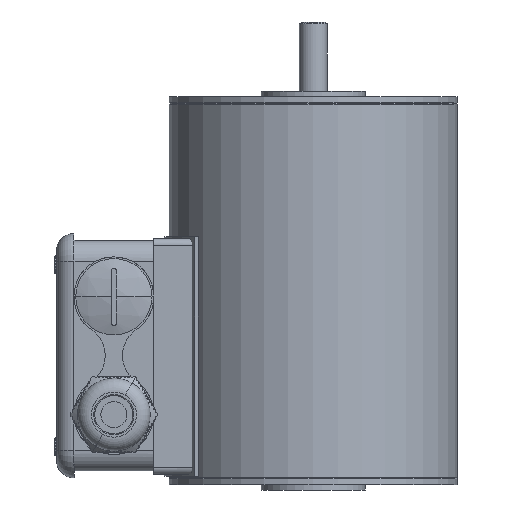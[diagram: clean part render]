
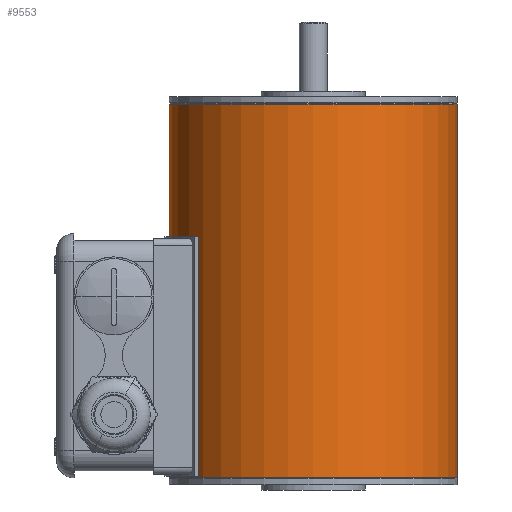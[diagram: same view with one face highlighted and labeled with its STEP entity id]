
A CAD part, front view. The second image highlights one B-rep face of the part: STEP entity #9553.
In plain terms, the highlighted cylindrical face has radius 41.5 mm (diameter 83 mm), a partial arc.
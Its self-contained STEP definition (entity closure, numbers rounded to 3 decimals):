
#1627 = EDGE_CURVE ( 'NONE', #1945, #1870, #7975, .T. ) ;
#1720 = EDGE_CURVE ( 'NONE', #1866, #1944, #8028, .T. ) ;
#1866 = VERTEX_POINT ( 'NONE', #2726 ) ;
#1870 = VERTEX_POINT ( 'NONE', #2766 ) ;
#1944 = VERTEX_POINT ( 'NONE', #2932 ) ;
#1945 = VERTEX_POINT ( 'NONE', #2931 ) ;
#2726 = CARTESIAN_POINT ( 'NONE',  ( -41.5, 0., -131.3 ) ) ;
#2766 = CARTESIAN_POINT ( 'NONE',  ( 41.5, 0., -23.7 ) ) ;
#2931 = CARTESIAN_POINT ( 'NONE',  ( 41.5, 0., -131.3 ) ) ;
#2932 = CARTESIAN_POINT ( 'NONE',  ( -41.5, 0., -23.7 ) ) ;
#4099 = DIRECTION ( 'NONE',  ( 0., 0., 1. ) ) ;
#4112 = DIRECTION ( 'NONE',  ( 1., 0., 0. ) ) ;
#4113 = AXIS2_PLACEMENT_3D ( 'NONE', #4121, #4099, #4112 ) ;
#4121 = CARTESIAN_POINT ( 'NONE',  ( 0., 0., -131.3 ) ) ;
#4282 = CIRCLE ( 'NONE', #4113, 41.5 ) ;
#4331 = DIRECTION ( 'NONE',  ( 1., 0., 0. ) ) ;
#4337 = AXIS2_PLACEMENT_3D ( 'NONE', #4340, #4392, #4331 ) ;
#4340 = CARTESIAN_POINT ( 'NONE',  ( 0., 0., -23.7 ) ) ;
#4390 = CARTESIAN_POINT ( 'NONE',  ( 0., 0., 0. ) ) ;
#4392 = DIRECTION ( 'NONE',  ( 0., 0., 1. ) ) ;
#4402 = AXIS2_PLACEMENT_3D ( 'NONE', #4390, #4436, #4435 ) ;
#4435 = DIRECTION ( 'NONE',  ( 1., 0., 0. ) ) ;
#4436 = DIRECTION ( 'NONE',  ( 0., 0., 1. ) ) ;
#4437 = CIRCLE ( 'NONE', #4337, 41.5 ) ;
#4449 = CYLINDRICAL_SURFACE ( 'NONE', #4402, 41.5 ) ;
#4454 = FACE_OUTER_BOUND ( 'NONE', #9316, .T. ) ;
#7910 = CARTESIAN_POINT ( 'NONE',  ( 41.5, 0., 0. ) ) ;
#7967 = DIRECTION ( 'NONE',  ( 0., 0., 1. ) ) ;
#7968 = VECTOR ( 'NONE', #7967, 1000. ) ;
#7975 = LINE ( 'NONE', #7910, #7968 ) ;
#8022 = VECTOR ( 'NONE', #8031, 1000. ) ;
#8027 = CARTESIAN_POINT ( 'NONE',  ( -41.5, 0., 0. ) ) ;
#8028 = LINE ( 'NONE', #8027, #8022 ) ;
#8031 = DIRECTION ( 'NONE',  ( 0., 0., 1. ) ) ;
#9316 = EDGE_LOOP ( 'NONE', ( #9479, #9321, #9486, #9578 ) ) ;
#9321 = ORIENTED_EDGE ( 'NONE', *, *, #9324, .T. ) ;
#9324 = EDGE_CURVE ( 'NONE', #1866, #1945, #4282, .T. ) ;
#9479 = ORIENTED_EDGE ( 'NONE', *, *, #1720, .F. ) ;
#9486 = ORIENTED_EDGE ( 'NONE', *, *, #1627, .T. ) ;
#9553 = ADVANCED_FACE ( 'NONE', ( #4454 ), #4449, .T. ) ;
#9560 = EDGE_CURVE ( 'NONE', #1944, #1870, #4437, .T. ) ;
#9578 = ORIENTED_EDGE ( 'NONE', *, *, #9560, .F. ) ;
